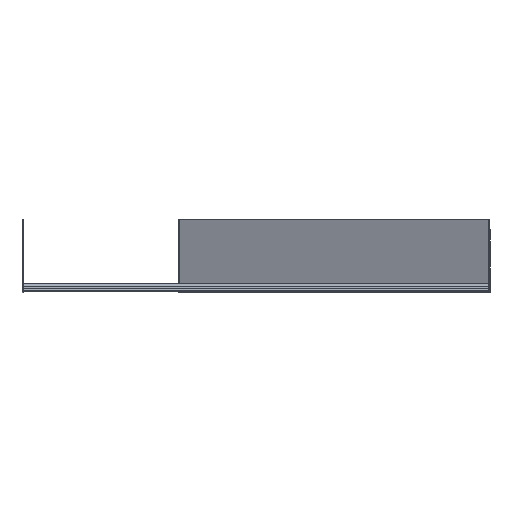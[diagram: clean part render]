
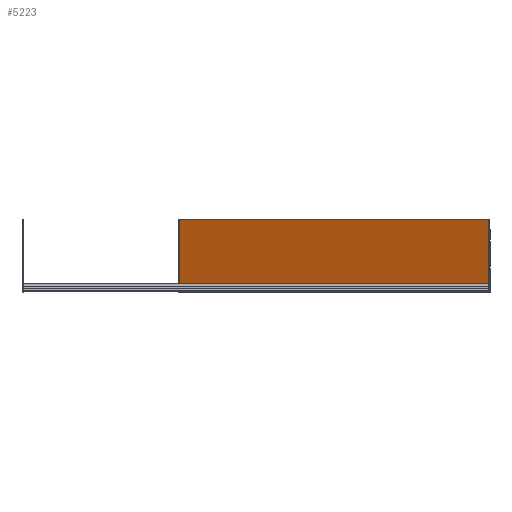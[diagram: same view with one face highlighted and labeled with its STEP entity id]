
A CAD part, top view. The second image highlights one B-rep face of the part: STEP entity #5223.
In plain terms, the highlighted planar face has unit normal (-0.423, 0, 0.906).
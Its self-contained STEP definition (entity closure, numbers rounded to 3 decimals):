
#228 = VERTEX_POINT ( 'NONE', #6634 ) ;
#612 = CARTESIAN_POINT ( 'NONE',  ( 749.134, 0., -0.404 ) ) ;
#745 = FACE_OUTER_BOUND ( 'NONE', #5418, .T. ) ;
#872 = CARTESIAN_POINT ( 'NONE',  ( 750., 140., 0. ) ) ;
#1139 = VECTOR ( 'NONE', #2508, 1000. ) ;
#1618 = LINE ( 'NONE', #9354, #9777 ) ;
#1778 = CARTESIAN_POINT ( 'NONE',  ( 749.134, 0., -0.404 ) ) ;
#2093 = EDGE_CURVE ( 'NONE', #3414, #9387, #1618, .T. ) ;
#2508 = DIRECTION ( 'NONE',  ( -0.906, 0., -0.423 ) ) ;
#2922 = CARTESIAN_POINT ( 'NONE',  ( 749.134, 140., -0.404 ) ) ;
#3157 = DIRECTION ( 'NONE',  ( 0., 1., 0. ) ) ;
#3414 = VERTEX_POINT ( 'NONE', #2922 ) ;
#5223 = ADVANCED_FACE ( 'NONE', ( #745 ), #8386, .T. ) ;
#5378 = DIRECTION ( 'NONE',  ( 0.906, 0., 0.423 ) ) ;
#5418 = EDGE_LOOP ( 'NONE', ( #10942, #8179, #9520, #7156 ) ) ;
#5563 = EDGE_CURVE ( 'NONE', #5983, #228, #11303, .T. ) ;
#5983 = VERTEX_POINT ( 'NONE', #1778 ) ;
#6303 = DIRECTION ( 'NONE',  ( 0., 1., 0. ) ) ;
#6538 = CARTESIAN_POINT ( 'NONE',  ( 152.02, 140., -279.057 ) ) ;
#6634 = CARTESIAN_POINT ( 'NONE',  ( 152.02, 0., -279.057 ) ) ;
#7156 = ORIENTED_EDGE ( 'NONE', *, *, #2093, .T. ) ;
#7619 = VECTOR ( 'NONE', #3157, 1000. ) ;
#7718 = CARTESIAN_POINT ( 'NONE',  ( 152.02, 0., -279.057 ) ) ;
#8179 = ORIENTED_EDGE ( 'NONE', *, *, #5563, .F. ) ;
#8186 = CARTESIAN_POINT ( 'NONE',  ( 750., 0., 0. ) ) ;
#8369 = LINE ( 'NONE', #612, #8467 ) ;
#8386 = PLANE ( 'NONE',  #11913 ) ;
#8453 = EDGE_CURVE ( 'NONE', #228, #9387, #10527, .T. ) ;
#8467 = VECTOR ( 'NONE', #6303, 1000. ) ;
#9354 = CARTESIAN_POINT ( 'NONE',  ( 750., 140., 0. ) ) ;
#9387 = VERTEX_POINT ( 'NONE', #6538 ) ;
#9520 = ORIENTED_EDGE ( 'NONE', *, *, #10721, .T. ) ;
#9777 = VECTOR ( 'NONE', #11050, 1000. ) ;
#10527 = LINE ( 'NONE', #7718, #7619 ) ;
#10721 = EDGE_CURVE ( 'NONE', #5983, #3414, #8369, .T. ) ;
#10942 = ORIENTED_EDGE ( 'NONE', *, *, #8453, .F. ) ;
#11050 = DIRECTION ( 'NONE',  ( -0.906, 0., -0.423 ) ) ;
#11258 = DIRECTION ( 'NONE',  ( -0.423, 0., 0.906 ) ) ;
#11303 = LINE ( 'NONE', #8186, #1139 ) ;
#11913 = AXIS2_PLACEMENT_3D ( 'NONE', #872, #11258, #5378 ) ;
